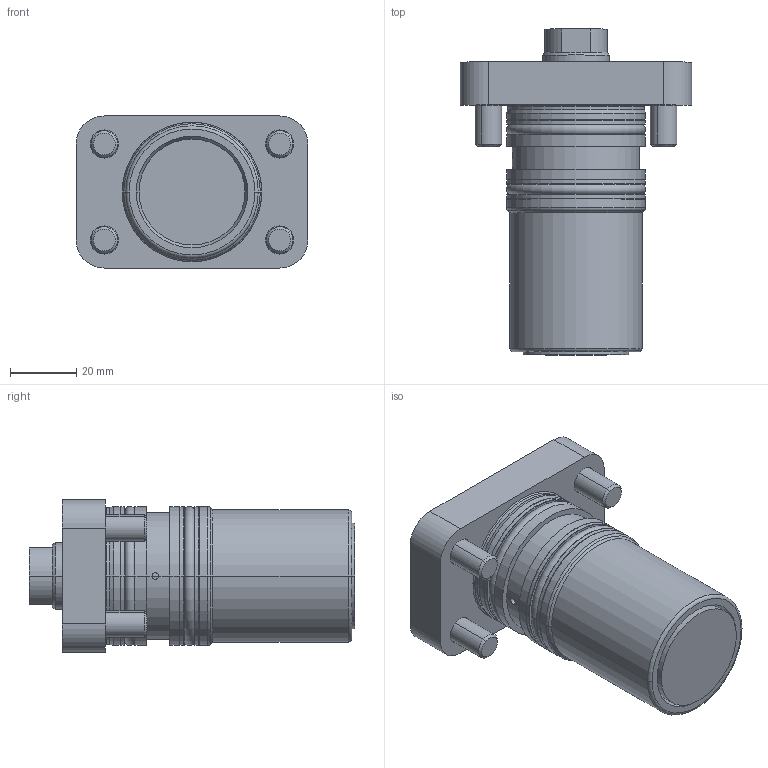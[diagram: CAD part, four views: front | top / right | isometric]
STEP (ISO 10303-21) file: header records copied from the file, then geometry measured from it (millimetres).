
FILE_DESCRIPTION (( 'STEP AP203' ), '1' );
FILE_NAME ('GERMA_Einbauzylinder_210-032-050.STEP', '2023-09-06T16:57:21', ( '' ), ( '' ), 'SwSTEP 2.0', 'SolidWorks 2016', '' );
FILE_SCHEMA (( 'CONFIG_CONTROL_DESIGN' ));
Length unit declared in the file: millimetre
Products named in the file (4): GERMA_Einbauzylinder_210-032-050; Gehaeuse 210-032_Gehaeuse 210-032-050; Kolben 60x-032_Kolben DU.32-Hub50-IG; DIN7984-M8x20
Assembly tree (6 placements, depth 2):
  GERMA_Einbauzylinder_210-032-050
    Gehaeuse 210-032_Gehaeuse 210-032-050
    Kolben 60x-032_Kolben DU.32-Hub50-IG
    DIN7984-M8x20  x4
Bounding box: 70 x 98.5 x 46 mm (x, y, z)
Volume: 115347.9 mm3; surface area: 41391.4 mm2
Topology: 6 solids, 6 shells, 374 faces, 893 edges, 558 vertices
Faces by surface type: plane 163, bspline 84, cylinder 75, cone 30, torus 22
Entity records: 12916 total; most frequent: CARTESIAN_POINT 5840, ORIENTED_EDGE 1430, DIRECTION 1218, EDGE_CURVE 715, VERTEX_POINT 459, AXIS2_PLACEMENT_3D 421, LINE 376, VECTOR 376
